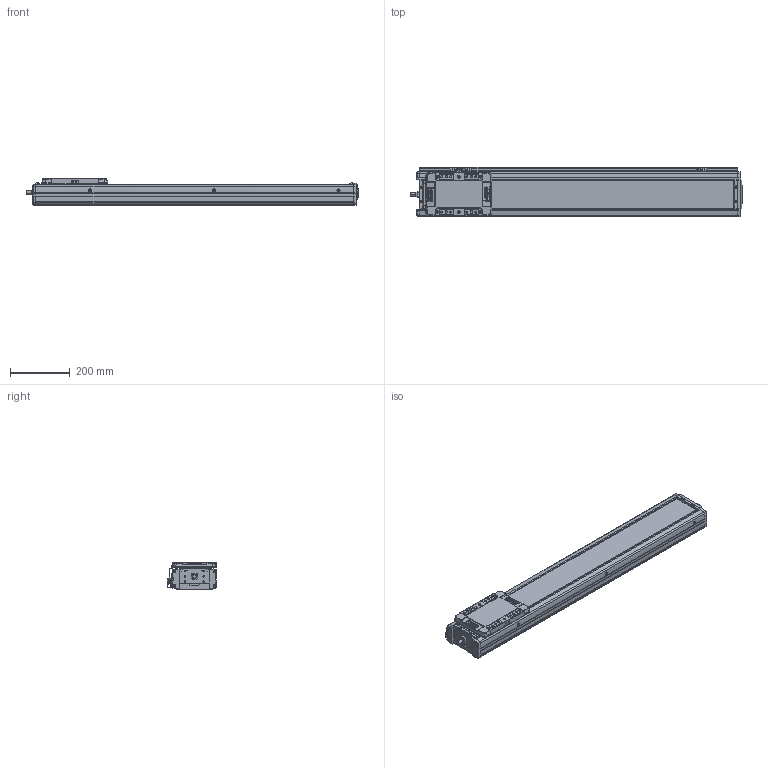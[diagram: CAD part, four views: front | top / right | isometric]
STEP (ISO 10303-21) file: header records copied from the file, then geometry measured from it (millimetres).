
FILE_DESCRIPTION(('STEP AP214'),'1');
FILE_NAME('Z:/Web/3D/SAN150/2013.04 (STP.)/SAN150ㅁㅁ-800+3SL.stp','2013-05-07T11:00:17',(' '),(' '),'Spatial InterOp 3D',' ',' ');
FILE_SCHEMA(('automotive_design'));
Length unit declared in the file: millimetre
Products named in the file (55): SLBL-SAN150; SLCV-SAN150; FHCS M4.0 x 8.0; BHCS M4.0 x 10.0; SFX-SAN150; RRCV-SAN150; FRBL-SAN150; Spacer; RN15; FRCV-SAN150; Screw 20; BASE-SAN150-000L ; SUS COVER; 스크루 : Round - M5.0 x 6.0; M3.0 x 6.0; SRL-16x17-360L; SGD-SAN150; EE-SX674; SBK-SX674-352; 스크루 : Round - M3.0 x 6.0
Bounding box: 1108 x 166 x 90 mm (x, y, z)
Volume: 6038841.9 mm3; surface area: 1226383.8 mm2
Topology: 55 solids, 55 shells, 2626 faces, 6774 edges, 4351 vertices
Faces by surface type: plane 1372, cylinder 863, cone 286, sphere 72, bspline 21, torus 12
Entity records: 104329 total; most frequent: CARTESIAN_POINT 16804, DIRECTION 14286, ORIENTED_EDGE 13316, EDGE_CURVE 6658, AXIS2_PLACEMENT_3D 5068, VERTEX_POINT 4351, LINE 4150, VECTOR 4150
